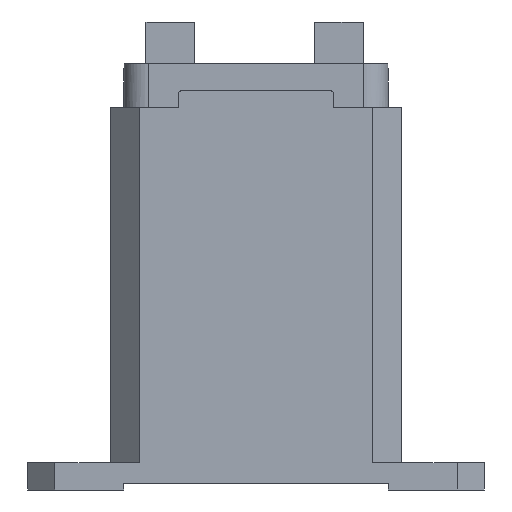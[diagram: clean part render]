
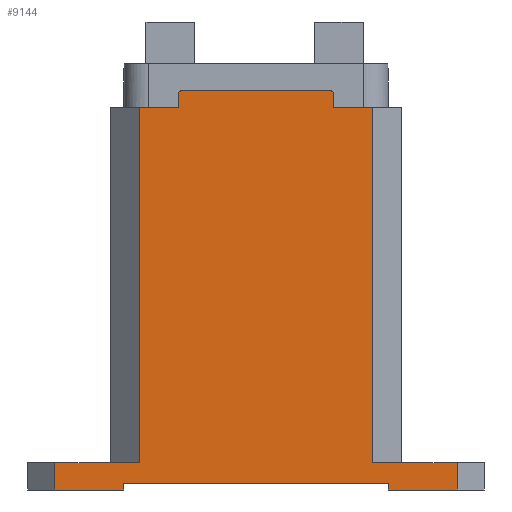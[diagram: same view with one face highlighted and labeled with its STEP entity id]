
A CAD part, front view. The second image highlights one B-rep face of the part: STEP entity #9144.
In plain terms, the highlighted planar face has unit normal (0, -1, 0).
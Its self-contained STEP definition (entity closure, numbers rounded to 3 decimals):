
#2000=DIRECTION('',(0.,0.,1.));
#2001=VECTOR('',#2000,3.556);
#2002=CARTESIAN_POINT('',(26.467,-17.526,-52.07));
#2003=LINE('',#2002,#2001);
#2004=DIRECTION('',(-1.,0.,0.));
#2005=VECTOR('',#2004,9.093);
#2006=CARTESIAN_POINT('',(26.467,-17.526,-52.07));
#2007=LINE('',#2006,#2005);
#2008=DIRECTION('',(0.,0.,1.));
#2009=VECTOR('',#2008,0.826);
#2010=CARTESIAN_POINT('',(17.374,-17.526,-52.07));
#2011=LINE('',#2010,#2009);
#2012=DIRECTION('',(-1.,0.,0.));
#2013=VECTOR('',#2012,34.747);
#2014=CARTESIAN_POINT('',(17.374,-17.526,-51.245));
#2015=LINE('',#2014,#2013);
#2016=DIRECTION('',(0.,0.,-1.));
#2017=VECTOR('',#2016,0.826);
#2018=CARTESIAN_POINT('',(-17.374,-17.526,-51.245));
#2019=LINE('',#2018,#2017);
#2020=DIRECTION('',(-1.,0.,0.));
#2021=VECTOR('',#2020,9.093);
#2022=CARTESIAN_POINT('',(-17.374,-17.526,-52.07));
#2023=LINE('',#2022,#2021);
#2024=DIRECTION('',(0.,0.,1.));
#2025=VECTOR('',#2024,3.556);
#2026=CARTESIAN_POINT('',(-26.467,-17.526,-52.07));
#2027=LINE('',#2026,#2025);
#2028=DIRECTION('',(1.,0.,0.));
#2029=VECTOR('',#2028,11.1);
#2030=CARTESIAN_POINT('',(-26.467,-17.526,-48.514));
#2031=LINE('',#2030,#2029);
#2032=DIRECTION('',(1.,0.,0.));
#2033=VECTOR('',#2032,5.156);
#2034=CARTESIAN_POINT('',(-15.367,-17.526,-1.778));
#2035=LINE('',#2034,#2033);
#2036=DIRECTION('',(0.,0.,-1.));
#2037=VECTOR('',#2036,1.803);
#2038=CARTESIAN_POINT('',(-10.211,-17.526,0.025));
#2039=LINE('',#2038,#2037);
#2040=CARTESIAN_POINT('',(-9.728,-17.526,0.025));
#2041=DIRECTION('',(0.,-1.,0.));
#2042=DIRECTION('',(0.,0.,1.));
#2043=AXIS2_PLACEMENT_3D('',#2040,#2041,#2042);
#2045=DIRECTION('',(-1.,0.,0.));
#2046=VECTOR('',#2045,19.456);
#2047=CARTESIAN_POINT('',(9.728,-17.526,0.508));
#2048=LINE('',#2047,#2046);
#2049=CARTESIAN_POINT('',(9.728,-17.526,0.025));
#2050=DIRECTION('',(0.,-1.,0.));
#2051=DIRECTION('',(1.,0.,0.));
#2052=AXIS2_PLACEMENT_3D('',#2049,#2050,#2051);
#2054=DIRECTION('',(0.,0.,1.));
#2055=VECTOR('',#2054,1.803);
#2056=CARTESIAN_POINT('',(10.211,-17.526,-1.778));
#2057=LINE('',#2056,#2055);
#2058=DIRECTION('',(1.,0.,0.));
#2059=VECTOR('',#2058,5.156);
#2060=CARTESIAN_POINT('',(10.211,-17.526,-1.778));
#2061=LINE('',#2060,#2059);
#2062=DIRECTION('',(0.,0.,1.));
#2063=VECTOR('',#2062,46.736);
#2064=CARTESIAN_POINT('',(15.367,-17.526,-48.514));
#2065=LINE('',#2064,#2063);
#2066=DIRECTION('',(1.,0.,0.));
#2067=VECTOR('',#2066,11.1);
#2068=CARTESIAN_POINT('',(15.367,-17.526,-48.514));
#2069=LINE('',#2068,#2067);
#2365=DIRECTION('',(0.,0.,1.));
#2366=VECTOR('',#2365,46.736);
#2367=CARTESIAN_POINT('',(-15.367,-17.526,-48.514));
#2368=LINE('',#2367,#2366);
#7690=CARTESIAN_POINT('',(17.374,-17.526,-52.07));
#7691=CARTESIAN_POINT('',(17.374,-17.526,-51.245));
#7692=VERTEX_POINT('',#7690);
#7693=VERTEX_POINT('',#7691);
#7694=CARTESIAN_POINT('',(-17.374,-17.526,-51.245));
#7695=VERTEX_POINT('',#7694);
#7696=CARTESIAN_POINT('',(-17.374,-17.526,-52.07));
#7697=VERTEX_POINT('',#7696);
#7708=CARTESIAN_POINT('',(26.467,-17.526,-52.07));
#7709=CARTESIAN_POINT('',(26.467,-17.526,-48.514));
#7710=VERTEX_POINT('',#7708);
#7711=VERTEX_POINT('',#7709);
#7712=CARTESIAN_POINT('',(-26.467,-17.526,-52.07));
#7713=CARTESIAN_POINT('',(-26.467,-17.526,-48.514));
#7714=VERTEX_POINT('',#7712);
#7715=VERTEX_POINT('',#7713);
#7774=CARTESIAN_POINT('',(-15.367,-17.526,-48.514));
#7775=VERTEX_POINT('',#7774);
#7776=CARTESIAN_POINT('',(15.367,-17.526,-48.514));
#7777=VERTEX_POINT('',#7776);
#7778=CARTESIAN_POINT('',(10.211,-17.526,0.025));
#7779=CARTESIAN_POINT('',(9.728,-17.526,0.508));
#7780=VERTEX_POINT('',#7778);
#7781=VERTEX_POINT('',#7779);
#7782=CARTESIAN_POINT('',(-9.728,-17.526,0.508));
#7783=VERTEX_POINT('',#7782);
#7784=CARTESIAN_POINT('',(-10.211,-17.526,0.025));
#7785=VERTEX_POINT('',#7784);
#7786=CARTESIAN_POINT('',(10.211,-17.526,-1.778));
#7787=VERTEX_POINT('',#7786);
#7788=CARTESIAN_POINT('',(-10.211,-17.526,-1.778));
#7789=VERTEX_POINT('',#7788);
#7807=CARTESIAN_POINT('',(-15.367,-17.526,-1.778));
#7809=VERTEX_POINT('',#7807);
#7814=CARTESIAN_POINT('',(15.367,-17.526,-1.778));
#7816=VERTEX_POINT('',#7814);
#9102=CARTESIAN_POINT('',(-14.097,-17.526,0.));
#9103=DIRECTION('',(0.,-1.,0.));
#9104=DIRECTION('',(1.,0.,0.));
#9105=AXIS2_PLACEMENT_3D('',#9102,#9103,#9104);
#9106=PLANE('',#9105);
#9108=ORIENTED_EDGE('',*,*,#9107,.F.);
#9110=ORIENTED_EDGE('',*,*,#9109,.T.);
#9112=ORIENTED_EDGE('',*,*,#9111,.T.);
#9114=ORIENTED_EDGE('',*,*,#9113,.T.);
#9116=ORIENTED_EDGE('',*,*,#9115,.T.);
#9118=ORIENTED_EDGE('',*,*,#9117,.T.);
#9120=ORIENTED_EDGE('',*,*,#9119,.T.);
#9122=ORIENTED_EDGE('',*,*,#9121,.T.);
#9124=ORIENTED_EDGE('',*,*,#9123,.T.);
#9126=ORIENTED_EDGE('',*,*,#9125,.T.);
#9128=ORIENTED_EDGE('',*,*,#9127,.F.);
#9130=ORIENTED_EDGE('',*,*,#9129,.F.);
#9132=ORIENTED_EDGE('',*,*,#9131,.F.);
#9134=ORIENTED_EDGE('',*,*,#9133,.F.);
#9135=ORIENTED_EDGE('',*,*,#9092,.F.);
#9137=ORIENTED_EDGE('',*,*,#9136,.T.);
#9139=ORIENTED_EDGE('',*,*,#9138,.F.);
#9141=ORIENTED_EDGE('',*,*,#9140,.T.);
#9142=EDGE_LOOP('',(#9108,#9110,#9112,#9114,#9116,#9118,#9120,#9122,#9124,#9126,
#9128,#9130,#9132,#9134,#9135,#9137,#9139,#9141));
#9143=FACE_OUTER_BOUND('',#9142,.F.);
#9144=ADVANCED_FACE('',(#9143),#9106,.T.);
#2044=CIRCLE('',#2043,0.483);
#2053=CIRCLE('',#2052,0.483);
#9092=EDGE_CURVE('',#7787,#7780,#2057,.T.);
#9107=EDGE_CURVE('',#7710,#7711,#2003,.T.);
#9109=EDGE_CURVE('',#7710,#7692,#2007,.T.);
#9111=EDGE_CURVE('',#7692,#7693,#2011,.T.);
#9113=EDGE_CURVE('',#7693,#7695,#2015,.T.);
#9115=EDGE_CURVE('',#7695,#7697,#2019,.T.);
#9117=EDGE_CURVE('',#7697,#7714,#2023,.T.);
#9119=EDGE_CURVE('',#7714,#7715,#2027,.T.);
#9121=EDGE_CURVE('',#7715,#7775,#2031,.T.);
#9123=EDGE_CURVE('',#7775,#7809,#2368,.T.);
#9125=EDGE_CURVE('',#7809,#7789,#2035,.T.);
#9127=EDGE_CURVE('',#7785,#7789,#2039,.T.);
#9129=EDGE_CURVE('',#7783,#7785,#2044,.T.);
#9131=EDGE_CURVE('',#7781,#7783,#2048,.T.);
#9133=EDGE_CURVE('',#7780,#7781,#2053,.T.);
#9136=EDGE_CURVE('',#7787,#7816,#2061,.T.);
#9138=EDGE_CURVE('',#7777,#7816,#2065,.T.);
#9140=EDGE_CURVE('',#7777,#7711,#2069,.T.);
